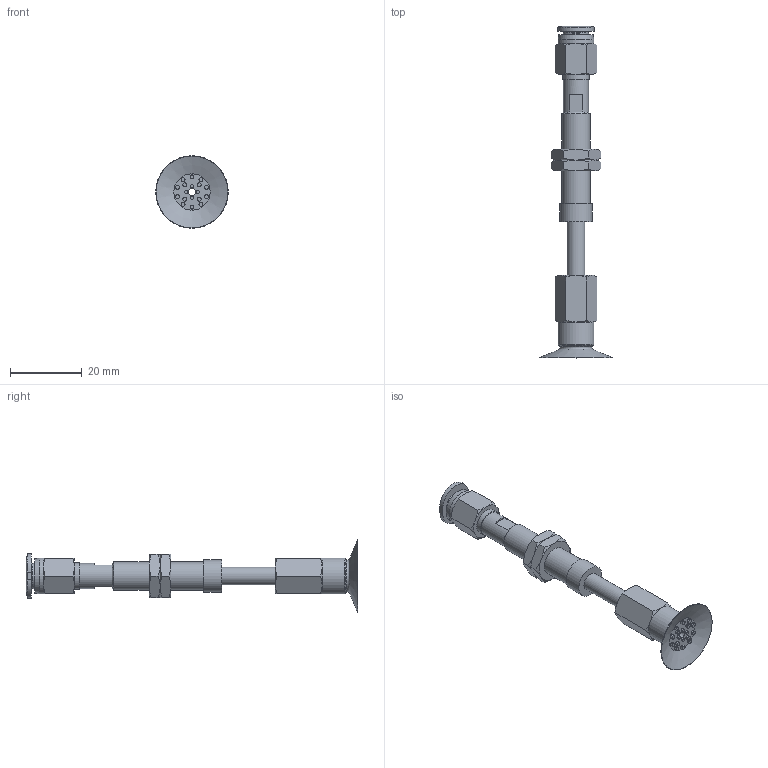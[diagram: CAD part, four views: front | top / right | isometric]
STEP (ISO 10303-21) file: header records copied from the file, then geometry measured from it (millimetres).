
FILE_DESCRIPTION(('STEP AP203'),'1');
FILE_NAME('-O.stp','2025-08-26T08:57:50',(' '),(' '),'Spatial InterOp 3D',' ',' ');
FILE_SCHEMA(('CONFIG_CONTROL_DESIGN'));
Length unit declared in the file: millimetre
Products named in the file (7): BNABPATS-20A-15-※-O; ADAPTER; NAPATS-10A-15--M; NAPATS-20A-15--F; Nut-10A-S; BPAG-20A-※_3D; PC-C_06-M5
Assembly tree (7 placements, depth 2):
  BNABPATS-20A-15-※-O
    ADAPTER
    NAPATS-10A-15--M
    NAPATS-20A-15--F
    Nut-10A-S  x2
    BPAG-20A-※_3D
    PC-C_06-M5
Bounding box: 20.19 x 92.48 x 20.19 mm (x, y, z)
Volume: 4257.3 mm3; surface area: 6349.9 mm2
Topology: 6 solids, 9 shells, 200 faces, 392 edges, 240 vertices
Faces by surface type: plane 76, cone 62, cylinder 43, torus 12, bspline 4, revolution 3
Full cylindrical faces by diameter (mm): 0.9 x4, 1.1 x14, 2 x3, 4 x4, 4.134 x1, 5 x3, 6 x2, 7 x2, 7.188 x2, 7.4 x1, 8 x1, 8.2 x1, 9 x1, 10 x2
Entity records: 4876 total; most frequent: CARTESIAN_POINT 1290, DIRECTION 695, ORIENTED_EDGE 530, AXIS2_PLACEMENT_3D 326, EDGE_LOOP 286, EDGE_CURVE 267, VERTEX_POINT 201, FACE_OUTER_BOUND 169
